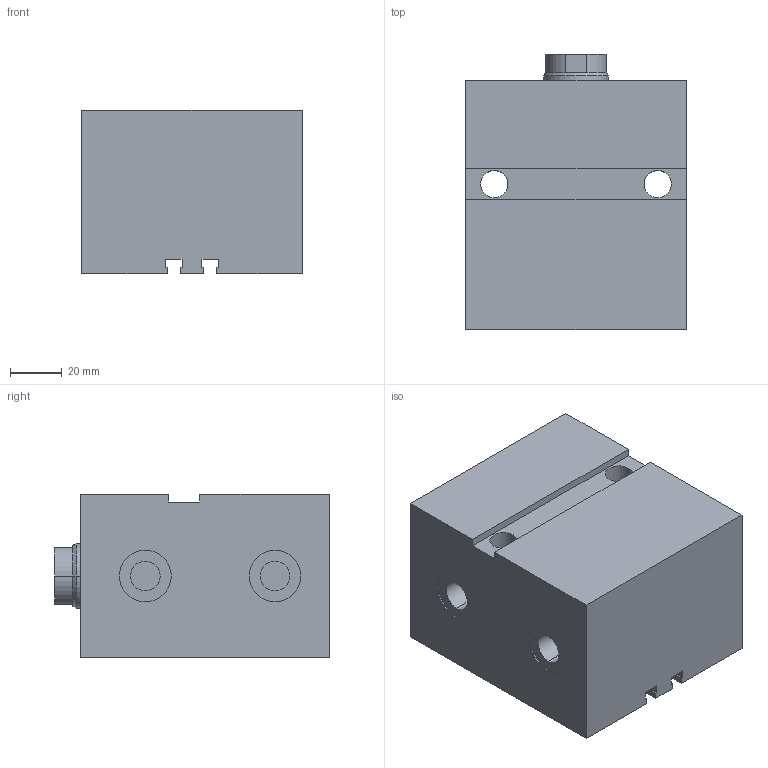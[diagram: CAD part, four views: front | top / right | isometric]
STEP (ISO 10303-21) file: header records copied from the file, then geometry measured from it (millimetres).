
FILE_DESCRIPTION (( 'STEP AP203' ), '1' );
FILE_NAME ('GERMA_Blockzylinder_702-040-025.STEP', '2016-07-23T10:12:05', ( '' ), ( '' ), 'SwSTEP 2.0', 'SolidWorks 2015', '' );
FILE_SCHEMA (( 'CONFIG_CONTROL_DESIGN' ));
Length unit declared in the file: millimetre
Products named in the file (3): GH-700-040_GH-702-040-025; Kolben_MT 70x-040_Kolben_MT DU.40-Hub25-IG; GERMA_Blockzylinder_702-040-025
Assembly tree (2 placements, depth 2):
  GERMA_Blockzylinder_702-040-025
    GH-700-040_GH-702-040-025
    Kolben_MT 70x-040_Kolben_MT DU.40-Hub25-IG
Bounding box: 85 x 106 x 63 mm (x, y, z)
Volume: 470846.8 mm3; surface area: 68885.1 mm2
Topology: 2 solids, 2 shells, 92 faces, 214 edges, 134 vertices
Faces by surface type: plane 43, cylinder 35, cone 14
Entity records: 2894 total; most frequent: DIRECTION 483, CARTESIAN_POINT 439, ORIENTED_EDGE 416, EDGE_CURVE 208, AXIS2_PLACEMENT_3D 178, VERTEX_POINT 134, LINE 127, VECTOR 127
